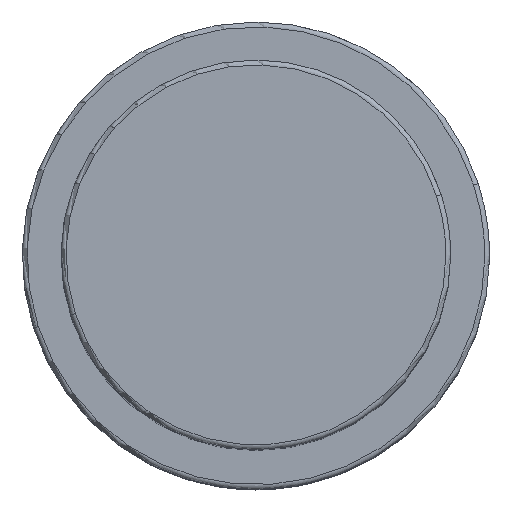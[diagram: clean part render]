
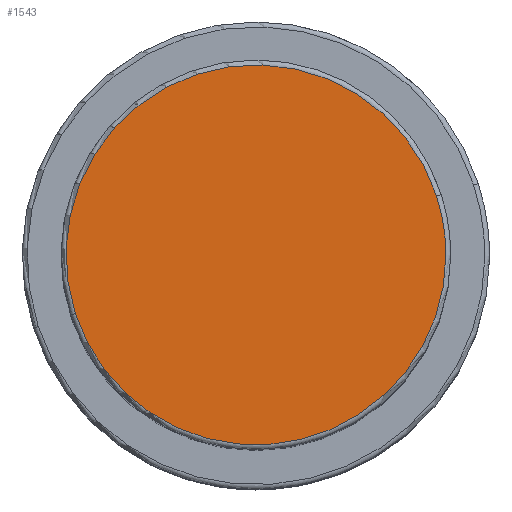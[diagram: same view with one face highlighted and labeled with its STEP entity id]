
A CAD part, top view. The second image highlights one B-rep face of the part: STEP entity #1543.
In plain terms, the highlighted planar face has unit normal (0, 0, 1).
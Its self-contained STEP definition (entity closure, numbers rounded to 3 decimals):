
#1509=CARTESIAN_POINT('',(19.5,0.0,68.5));
#1510=VERTEX_POINT('',#1509);
#1511=CARTESIAN_POINT('',(18.546,6.026,68.5));
#1512=VERTEX_POINT('',#1511);
#1513=CARTESIAN_POINT('',(0.0,0.0,68.5));
#1514=DIRECTION('',(0.0,0.0,1.0));
#1515=DIRECTION('',(1.0,0.0,0.0));
#1516=AXIS2_PLACEMENT_3D('',#1513,#1514,#1515);
#1517=CIRCLE('',#1516,19.5);
#1518=EDGE_CURVE('no 1778',#1510,#1512,#1517,.T.);
#1519=ORIENTED_EDGE('',*,*,#1518,.T.);
#1520=CARTESIAN_POINT('',(-18.546,-6.026,68.5));
#1521=VERTEX_POINT('',#1520);
#1522=CARTESIAN_POINT('',(0.0,0.0,68.5));
#1523=DIRECTION('',(0.0,0.0,1.0));
#1524=DIRECTION('',(1.0,0.0,0.0));
#1525=AXIS2_PLACEMENT_3D('',#1522,#1523,#1524);
#1526=CIRCLE('',#1525,19.5);
#1527=EDGE_CURVE('no 1784',#1512,#1521,#1526,.T.);
#1528=ORIENTED_EDGE('',*,*,#1527,.T.);
#1529=CARTESIAN_POINT('',(0.0,0.0,68.5));
#1530=DIRECTION('',(0.0,0.0,1.0));
#1531=DIRECTION('',(1.0,0.0,0.0));
#1532=AXIS2_PLACEMENT_3D('',#1529,#1530,#1531);
#1533=CIRCLE('',#1532,19.5);
#1534=EDGE_CURVE('no 1788',#1521,#1510,#1533,.T.);
#1535=ORIENTED_EDGE('',*,*,#1534,.T.);
#1536=EDGE_LOOP('',(#1519,#1528,#1535));
#1537=FACE_OUTER_BOUND('',#1536,.T.);
#1538=CARTESIAN_POINT('',(0.0,0.0,68.5));
#1539=DIRECTION('',(0.0,0.0,1.0));
#1540=DIRECTION('',(1.0,0.0,0.0));
#1541=AXIS2_PLACEMENT_3D('',#1538,#1539,#1540);
#1542=PLANE('',#1541);
#1543=ADVANCED_FACE('no 1769',(#1537),#1542,.T.);
